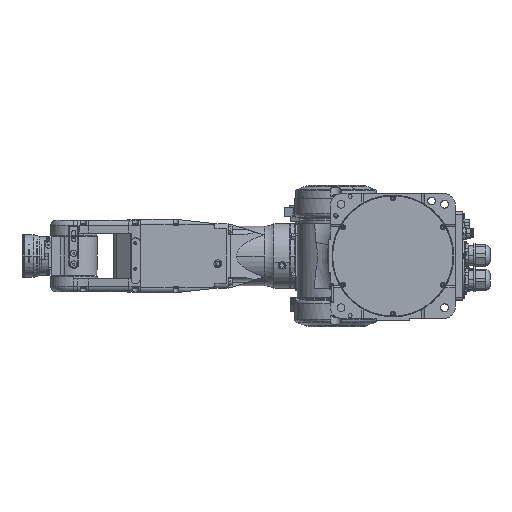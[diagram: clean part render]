
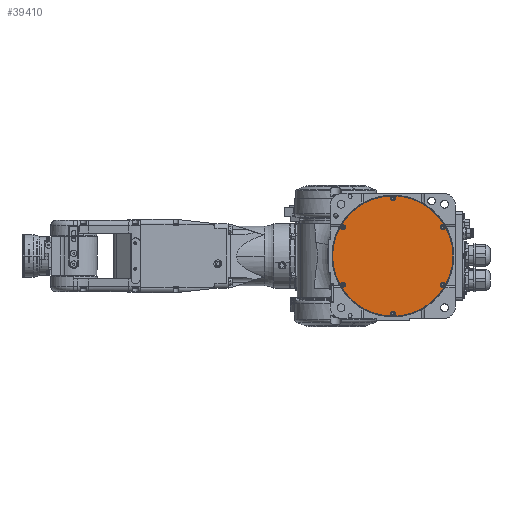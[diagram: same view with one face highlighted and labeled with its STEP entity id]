
A CAD part, front view. The second image highlights one B-rep face of the part: STEP entity #39410.
In plain terms, the highlighted planar face has unit normal (0, -1, 0).
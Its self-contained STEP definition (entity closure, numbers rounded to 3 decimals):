
#19032 = EDGE_CURVE( '', #33208, #32256, #56210, .T. );
#19214 = VERTEX_POINT( '', #56418 );
#19384 = VERTEX_POINT( '', #56606 );
#20410 = VERTEX_POINT( '', #57749 );
#20534 = EDGE_CURVE( '', #51314, #27986, #57883, .T. );
#21588 = EDGE_CURVE( '', #19214, #50028, #59030, .T. );
#21638 = VERTEX_POINT( '', #59090 );
#23820 = EDGE_CURVE( '', #19384, #50852, #61509, .T. );
#26326 = EDGE_CURVE( '', #20410, #49920, #64289, .T. );
#27986 = VERTEX_POINT( '', #66143 );
#30180 = EDGE_CURVE( '', #43050, #32024, #68547, .T. );
#32024 = VERTEX_POINT( '', #70576 );
#32078 = EDGE_CURVE( '', #27986, #51314, #70641, .T. );
#32256 = VERTEX_POINT( '', #70836 );
#33208 = VERTEX_POINT( '', #71899 );
#39044 = EDGE_CURVE( '', #40790, #21638, #78363, .T. );
#39410 = ADVANCED_FACE( '', ( #78762, #78763, #78764, #78765, #78766, #78767, #78768 ), #78769, .T. );
#40790 = VERTEX_POINT( '', #80293 );
#42840 = EDGE_CURVE( '', #49920, #20410, #82574, .T. );
#43050 = VERTEX_POINT( '', #82811 );
#44672 = EDGE_CURVE( '', #21638, #40790, #84600, .T. );
#45744 = EDGE_CURVE( '', #50852, #19384, #85776, .T. );
#48168 = EDGE_CURVE( '', #32024, #43050, #88431, .T. );
#49214 = EDGE_CURVE( '', #50028, #19214, #89573, .T. );
#49920 = VERTEX_POINT( '', #90349 );
#50028 = VERTEX_POINT( '', #90471 );
#50852 = VERTEX_POINT( '', #91376 );
#51314 = VERTEX_POINT( '', #91889 );
#51322 = EDGE_CURVE( '', #32256, #33208, #91898, .T. );
#56210 = CIRCLE( '', #97477, 3.8 );
#56418 = CARTESIAN_POINT( '', ( 73.785, 3.4, 42.6 ) );
#56606 = CARTESIAN_POINT( '', ( 73.785, 3.4, -42.6 ) );
#57749 = CARTESIAN_POINT( '', ( 93., 3.4, 0. ) );
#57883 = CIRCLE( '', #99946, 3.8 );
#59030 = CIRCLE( '', #101708, 3.8 );
#59090 = CARTESIAN_POINT( '', ( 0., 3.4, 85.2 ) );
#61509 = CIRCLE( '', #105502, 3.8 );
#64289 = CIRCLE( '', #109933, 93. );
#66143 = CARTESIAN_POINT( '', ( -80.367, 3.4, -46.4 ) );
#68547 = CIRCLE( '', #116233, 3.8 );
#70576 = CARTESIAN_POINT( '', ( -73.785, 3.4, 42.6 ) );
#70641 = CIRCLE( '', #119502, 3.8 );
#70836 = CARTESIAN_POINT( '', ( 0., 3.4, -85.2 ) );
#71899 = CARTESIAN_POINT( '', ( 0., 3.4, -92.8 ) );
#78363 = CIRCLE( '', #131726, 3.8 );
#78762 = FACE_BOUND( '', #132353, .T. );
#78763 = FACE_BOUND( '', #132354, .T. );
#78764 = FACE_BOUND( '', #132355, .T. );
#78765 = FACE_BOUND( '', #132356, .T. );
#78766 = FACE_BOUND( '', #132357, .T. );
#78767 = FACE_BOUND( '', #132358, .T. );
#78768 = FACE_OUTER_BOUND( '', #132359, .T. );
#78769 = PLANE( '', #132360 );
#80293 = CARTESIAN_POINT( '', ( 0., 3.4, 92.8 ) );
#82574 = CIRCLE( '', #138163, 93. );
#82811 = CARTESIAN_POINT( '', ( -80.367, 3.4, 46.4 ) );
#84600 = CIRCLE( '', #141309, 3.8 );
#85776 = CIRCLE( '', #143107, 3.8 );
#88431 = CIRCLE( '', #147293, 3.8 );
#89573 = CIRCLE( '', #149118, 3.8 );
#90349 = CARTESIAN_POINT( '', ( -93., 3.4, 0. ) );
#90471 = CARTESIAN_POINT( '', ( 80.367, 3.4, 46.4 ) );
#91376 = CARTESIAN_POINT( '', ( 80.367, 3.4, -46.4 ) );
#91889 = CARTESIAN_POINT( '', ( -73.785, 3.4, -42.6 ) );
#91898 = CIRCLE( '', #152690, 3.8 );
#97477 = AXIS2_PLACEMENT_3D( '', #160896, #160897, #160898 );
#99946 = AXIS2_PLACEMENT_3D( '', #162941, #162942, #162943 );
#101708 = AXIS2_PLACEMENT_3D( '', #164187, #164188, #164189 );
#105502 = AXIS2_PLACEMENT_3D( '', #167061, #167062, #167063 );
#109933 = AXIS2_PLACEMENT_3D( '', #170280, #170281, #170282 );
#116233 = AXIS2_PLACEMENT_3D( '', #175212, #175213, #175214 );
#119502 = AXIS2_PLACEMENT_3D( '', #177610, #177611, #177612 );
#131726 = AXIS2_PLACEMENT_3D( '', #186683, #186684, #186685 );
#132353 = EDGE_LOOP( '', ( #187076, #187077 ) );
#132354 = EDGE_LOOP( '', ( #187078, #187079 ) );
#132355 = EDGE_LOOP( '', ( #187080, #187081 ) );
#132356 = EDGE_LOOP( '', ( #187082, #187083 ) );
#132357 = EDGE_LOOP( '', ( #187084, #187085 ) );
#132358 = EDGE_LOOP( '', ( #187086, #187087 ) );
#132359 = EDGE_LOOP( '', ( #187088, #187089 ) );
#132360 = AXIS2_PLACEMENT_3D( '', #187090, #187091, #187092 );
#138163 = AXIS2_PLACEMENT_3D( '', #191736, #191737, #191738 );
#141309 = AXIS2_PLACEMENT_3D( '', #194072, #194073, #194074 );
#143107 = AXIS2_PLACEMENT_3D( '', #195378, #195379, #195380 );
#147293 = AXIS2_PLACEMENT_3D( '', #198402, #198403, #198404 );
#149118 = AXIS2_PLACEMENT_3D( '', #199610, #199611, #199612 );
#152690 = AXIS2_PLACEMENT_3D( '', #202293, #202294, #202295 );
#160896 = CARTESIAN_POINT( '', ( 0., 3.4, -89. ) );
#160897 = DIRECTION( '', ( 0., 1., 0. ) );
#160898 = DIRECTION( '', ( 0., 0., -1. ) );
#162941 = CARTESIAN_POINT( '', ( -77.076, 3.4, -44.5 ) );
#162942 = DIRECTION( '', ( 0., 1., 0. ) );
#162943 = DIRECTION( '', ( -0.866, 0., -0.5 ) );
#164187 = CARTESIAN_POINT( '', ( 77.076, 3.4, 44.5 ) );
#164188 = DIRECTION( '', ( 0., 1., 0. ) );
#164189 = DIRECTION( '', ( -0.866, 0., -0.5 ) );
#167061 = CARTESIAN_POINT( '', ( 77.076, 3.4, -44.5 ) );
#167062 = DIRECTION( '', ( 0., 1., 0. ) );
#167063 = DIRECTION( '', ( 0.866, 0., -0.5 ) );
#170280 = CARTESIAN_POINT( '', ( 0., 3.4, 0. ) );
#170281 = DIRECTION( '', ( 0., 1., 0. ) );
#170282 = DIRECTION( '', ( 1., 0., 0. ) );
#175212 = CARTESIAN_POINT( '', ( -77.076, 3.4, 44.5 ) );
#175213 = DIRECTION( '', ( 0., 1., 0. ) );
#175214 = DIRECTION( '', ( 0.866, 0., -0.5 ) );
#177610 = CARTESIAN_POINT( '', ( -77.076, 3.4, -44.5 ) );
#177611 = DIRECTION( '', ( 0., 1., 0. ) );
#177612 = DIRECTION( '', ( -0.866, 0., -0.5 ) );
#186683 = CARTESIAN_POINT( '', ( 0., 3.4, 89. ) );
#186684 = DIRECTION( '', ( 0., 1., 0. ) );
#186685 = DIRECTION( '', ( 0., 0., -1. ) );
#187076 = ORIENTED_EDGE( '', *, *, #48168, .T. );
#187077 = ORIENTED_EDGE( '', *, *, #30180, .T. );
#187078 = ORIENTED_EDGE( '', *, *, #45744, .T. );
#187079 = ORIENTED_EDGE( '', *, *, #23820, .T. );
#187080 = ORIENTED_EDGE( '', *, *, #21588, .T. );
#187081 = ORIENTED_EDGE( '', *, *, #49214, .T. );
#187082 = ORIENTED_EDGE( '', *, *, #32078, .T. );
#187083 = ORIENTED_EDGE( '', *, *, #20534, .T. );
#187084 = ORIENTED_EDGE( '', *, *, #44672, .T. );
#187085 = ORIENTED_EDGE( '', *, *, #39044, .T. );
#187086 = ORIENTED_EDGE( '', *, *, #19032, .T. );
#187087 = ORIENTED_EDGE( '', *, *, #51322, .T. );
#187088 = ORIENTED_EDGE( '', *, *, #26326, .F. );
#187089 = ORIENTED_EDGE( '', *, *, #42840, .F. );
#187090 = CARTESIAN_POINT( '', ( 46.5, 3.4, 0. ) );
#187091 = DIRECTION( '', ( 0., -1., 0. ) );
#187092 = DIRECTION( '', ( -1., 0., 0. ) );
#191736 = CARTESIAN_POINT( '', ( 0., 3.4, 0. ) );
#191737 = DIRECTION( '', ( 0., 1., 0. ) );
#191738 = DIRECTION( '', ( 1., 0., 0. ) );
#194072 = CARTESIAN_POINT( '', ( 0., 3.4, 89. ) );
#194073 = DIRECTION( '', ( 0., 1., 0. ) );
#194074 = DIRECTION( '', ( 0., 0., -1. ) );
#195378 = CARTESIAN_POINT( '', ( 77.076, 3.4, -44.5 ) );
#195379 = DIRECTION( '', ( 0., 1., 0. ) );
#195380 = DIRECTION( '', ( 0.866, 0., -0.5 ) );
#198402 = CARTESIAN_POINT( '', ( -77.076, 3.4, 44.5 ) );
#198403 = DIRECTION( '', ( 0., 1., 0. ) );
#198404 = DIRECTION( '', ( 0.866, 0., -0.5 ) );
#199610 = CARTESIAN_POINT( '', ( 77.076, 3.4, 44.5 ) );
#199611 = DIRECTION( '', ( 0., 1., 0. ) );
#199612 = DIRECTION( '', ( -0.866, 0., -0.5 ) );
#202293 = CARTESIAN_POINT( '', ( 0., 3.4, -89. ) );
#202294 = DIRECTION( '', ( 0., 1., 0. ) );
#202295 = DIRECTION( '', ( 0., 0., -1. ) );
